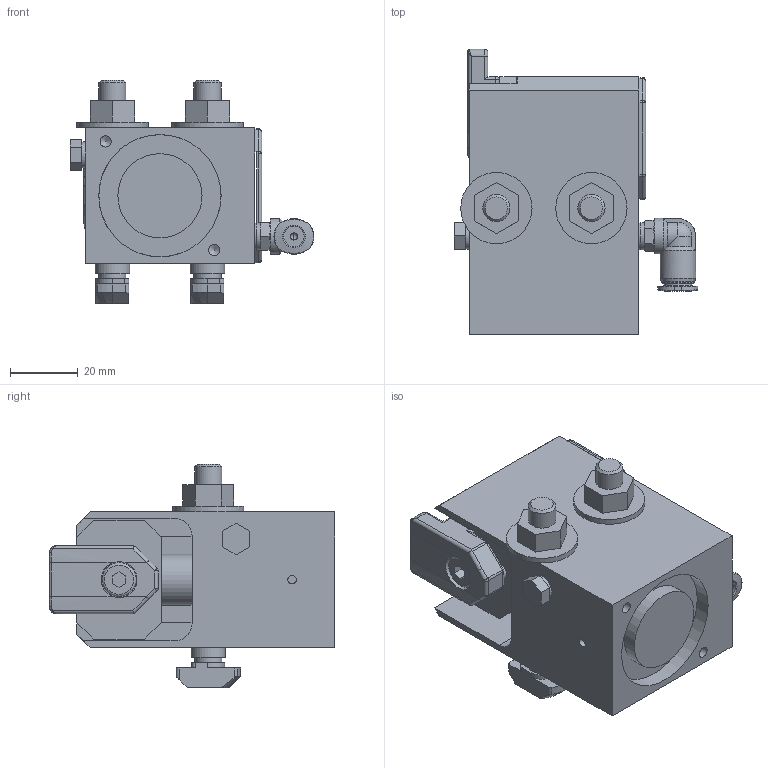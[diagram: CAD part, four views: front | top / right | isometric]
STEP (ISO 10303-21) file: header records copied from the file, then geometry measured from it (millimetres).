
FILE_DESCRIPTION (( 'STEP AP203' ), '1' );
FILE_NAME ('ASMS-10-EW-08-100.STEP', '2017-02-21T08:30:11', ( '' ), ( '' ), 'SwSTEP 2.0', 'SolidWorks 2015', '' );
FILE_SCHEMA (( 'CONFIG_CONTROL_DESIGN' ));
Length unit declared in the file: metre
Products named in the file (1): ASMS-10-EW-08-100
Bounding box: 71.9 x 84 x 65.8 mm (x, y, z)
Volume: 143003.4 mm3; surface area: 41298.4 mm2
Topology: 4 solids, 4 shells, 737 faces, 1907 edges, 1227 vertices
Faces by surface type: plane 349, cylinder 236, bspline 89, cone 34, sphere 20, torus 9
Full cylindrical faces by diameter (mm): 0.1 x2, 2.1 x2, 2.5 x1, 3.3 x2, 4.2 x1, 5 x2, 5.3 x1, 5.5 x1, 6 x1, 7.8 x2, 8 x6, 8.2 x4, 8.4 x1, 9.45 x1, 10 x2, 10.13 x2, 10.2 x4, 10.5 x2, 10.6 x1, 15 x1, 21 x2, 24.8 x1, 36 x1, 36.05 x1
Entity records: 27426 total; most frequent: CARTESIAN_POINT 10158, ORIENTED_EDGE 3614, DIRECTION 3339, EDGE_CURVE 1807, VERTEX_POINT 1204, AXIS2_PLACEMENT_3D 1135, LINE 1069, VECTOR 1069
